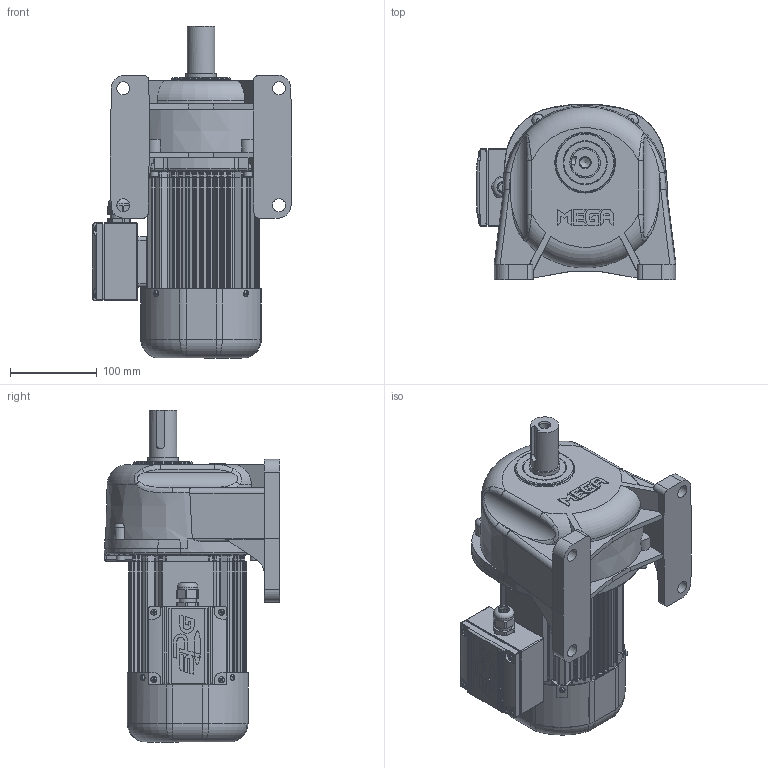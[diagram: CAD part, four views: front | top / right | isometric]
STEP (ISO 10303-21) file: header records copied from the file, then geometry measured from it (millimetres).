
FILE_DESCRIPTION(/* description */ (''),/* implementation_level */ '2;1');
FILE_NAME(/* name */ 'Z:\동력 3D 파일\PML135_0.4kW_Brake_3D.stp',/* time_stamp */ '2021-11-30T14:29:29+09:00',/* author */ ('jaebok'),/* organization */ (''),/* preprocessor_version */ 'ST-DEVELOPER v18.1',/* originating_system */ 'Autodesk Inventor 2022',/* authorisation */ '');
FILE_SCHEMA (('AUTOMOTIVE_DESIGN { 1 0 10303 214 3 1 1 }'));
Length unit declared in the file: millimetre
Products named in the file (1): 부품2
Bounding box: 231 x 202.97 x 383.5 mm (x, y, z)
Volume: 2488998.7 mm3; surface area: 723596.1 mm2
Topology: 2 solids, 33 shells, 3332 faces, 8418 edges, 5068 vertices
Faces by surface type: plane 1179, cylinder 966, bspline 669, torus 261, cone 163, sphere 94
Full cylindrical faces by diameter (mm): 1.5 x2, 2 x4, 3 x8, 3.242 x4, 3.25 x1, 3.3 x4, 3.6 x4, 3.8 x3, 4 x25, 4.2 x8, 4.917 x4, 5 x25, 5.8 x2, 5.9 x3, 6 x22, 6.4 x1, 6.5 x6, 6.8 x4, 7 x12, 7.9 x6, 8 x4, 8.5 x1, 8.7 x1, 9.5 x4, 10 x5, 12 x1, 12.5 x1, 15 x5, 18 x1, 19 x1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
Entity records: 130530 total; most frequent: CARTESIAN_POINT 51519, ORIENTED_EDGE 16370, DIRECTION 15103, EDGE_CURVE 8185, AXIS2_PLACEMENT_3D 6003, VERTEX_POINT 5057, EDGE_LOOP 3606, FACE_OUTER_BOUND 3332
